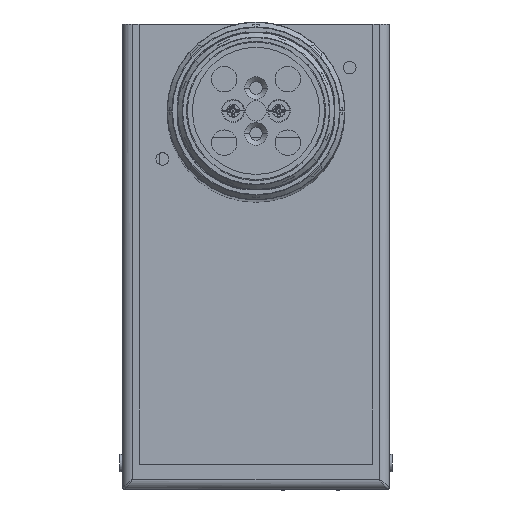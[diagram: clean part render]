
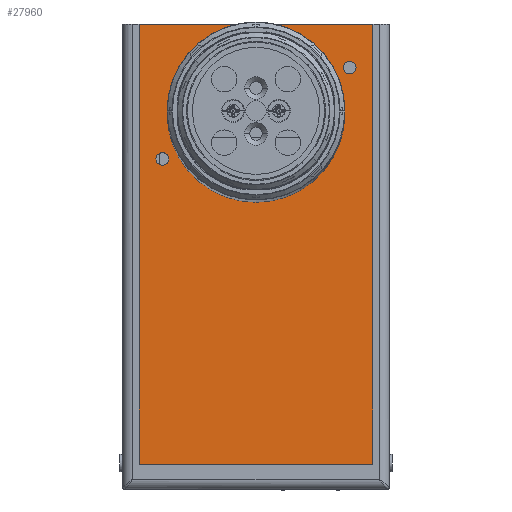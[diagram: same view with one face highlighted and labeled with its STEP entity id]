
A CAD part, top view. The second image highlights one B-rep face of the part: STEP entity #27960.
In plain terms, the highlighted planar face has unit normal (0, 0, 1).
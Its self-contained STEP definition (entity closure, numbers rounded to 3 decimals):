
#894 = CARTESIAN_POINT ( 'NONE',  ( 34.413, 62.507, 334.5 ) ) ;
#1187 = DIRECTION ( 'NONE',  ( 1., 0., 0. ) ) ;
#1225 = DIRECTION ( 'NONE',  ( 0., 0., 1. ) ) ;
#2099 = CARTESIAN_POINT ( 'NONE',  ( 32.563, 44.534, 334.5 ) ) ;
#2433 = AXIS2_PLACEMENT_3D ( 'NONE', #38043, #30688, #4895 ) ;
#2964 = EDGE_CURVE ( 'NONE', #37181, #27104, #26144, .T. ) ;
#2967 = ORIENTED_EDGE ( 'NONE', *, *, #17837, .T. ) ;
#3018 = VERTEX_POINT ( 'NONE', #35580 ) ;
#4639 = VECTOR ( 'NONE', #36598, 1000. ) ;
#4748 = ORIENTED_EDGE ( 'NONE', *, *, #23690, .T. ) ;
#4883 = DIRECTION ( 'NONE',  ( 0., 0., 1. ) ) ;
#4895 = DIRECTION ( 'NONE',  ( -1., 0., 0. ) ) ;
#5118 = VERTEX_POINT ( 'NONE', #30305 ) ;
#5563 = CARTESIAN_POINT ( 'NONE',  ( -39.288, 26.561, 334.5 ) ) ;
#6053 = ORIENTED_EDGE ( 'NONE', *, *, #24889, .F. ) ;
#6227 = EDGE_CURVE ( 'NONE', #32697, #5118, #43122, .T. ) ;
#6523 = VERTEX_POINT ( 'NONE', #25514 ) ;
#7358 = AXIS2_PLACEMENT_3D ( 'NONE', #894, #4883, #44943 ) ;
#7478 = CARTESIAN_POINT ( 'NONE',  ( 43.563, 79.534, 334.5 ) ) ;
#8617 = VERTEX_POINT ( 'NONE', #24850 ) ;
#11777 = FACE_OUTER_BOUND ( 'NONE', #47098, .T. ) ;
#11955 = CARTESIAN_POINT ( 'NONE',  ( 43.563, 79.534, 334.5 ) ) ;
#13008 = ORIENTED_EDGE ( 'NONE', *, *, #2964, .T. ) ;
#13064 = CIRCLE ( 'NONE', #15388, 2.5 ) ;
#13167 = CARTESIAN_POINT ( 'NONE',  ( -48.437, -93.466, 334.5 ) ) ;
#13215 = CARTESIAN_POINT ( 'NONE',  ( -2.437, 44.534, 334.5 ) ) ;
#13480 = FACE_BOUND ( 'NONE', #16788, .T. ) ;
#14121 = VECTOR ( 'NONE', #46150, 1000. ) ;
#14562 = ORIENTED_EDGE ( 'NONE', *, *, #27738, .T. ) ;
#14605 = AXIS2_PLACEMENT_3D ( 'NONE', #13215, #38823, #28085 ) ;
#14620 = CARTESIAN_POINT ( 'NONE',  ( 36.913, 62.507, 334.5 ) ) ;
#15388 = AXIS2_PLACEMENT_3D ( 'NONE', #19223, #22724, #22386 ) ;
#16788 = EDGE_LOOP ( 'NONE', ( #28894, #41592 ) ) ;
#17606 = DIRECTION ( 'NONE',  ( 0., 0., -1. ) ) ;
#17739 = DIRECTION ( 'NONE',  ( 0., 0., 1. ) ) ;
#17837 = EDGE_CURVE ( 'NONE', #27104, #22146, #27568, .T. ) ;
#19223 = CARTESIAN_POINT ( 'NONE',  ( 34.413, 62.507, 334.5 ) ) ;
#19315 = LINE ( 'NONE', #7478, #33623 ) ;
#19411 = EDGE_CURVE ( 'NONE', #3018, #8617, #30925, .T. ) ;
#20274 = VERTEX_POINT ( 'NONE', #32906 ) ;
#21117 = CARTESIAN_POINT ( 'NONE',  ( -2.437, 44.534, 334.5 ) ) ;
#21263 = DIRECTION ( 'NONE',  ( -1., 0., 0. ) ) ;
#22146 = VERTEX_POINT ( 'NONE', #32036 ) ;
#22386 = DIRECTION ( 'NONE',  ( -1., 0., 0. ) ) ;
#22527 = DIRECTION ( 'NONE',  ( -1., 0., 0. ) ) ;
#22724 = DIRECTION ( 'NONE',  ( 0., 0., 1. ) ) ;
#23344 = EDGE_CURVE ( 'NONE', #6523, #34886, #33902, .T. ) ;
#23690 = EDGE_CURVE ( 'NONE', #5118, #22146, #43051, .T. ) ;
#23771 = VERTEX_POINT ( 'NONE', #14620 ) ;
#23875 = CARTESIAN_POINT ( 'NONE',  ( -39.288, 26.561, 334.5 ) ) ;
#24850 = CARTESIAN_POINT ( 'NONE',  ( -36.788, 26.561, 334.5 ) ) ;
#24889 = EDGE_CURVE ( 'NONE', #8617, #3018, #31994, .T. ) ;
#24946 = DIRECTION ( 'NONE',  ( -1., 0., 0. ) ) ;
#25514 = CARTESIAN_POINT ( 'NONE',  ( -48.437, 79.534, 334.5 ) ) ;
#26048 = EDGE_CURVE ( 'NONE', #22146, #6523, #19315, .T. ) ;
#26144 = LINE ( 'NONE', #42316, #14121 ) ;
#27104 = VERTEX_POINT ( 'NONE', #32186 ) ;
#27508 = AXIS2_PLACEMENT_3D ( 'NONE', #5563, #17739, #21263 ) ;
#27568 = LINE ( 'NONE', #46674, #45919 ) ;
#27738 = EDGE_CURVE ( 'NONE', #22146, #32697, #31297, .T. ) ;
#27944 = EDGE_CURVE ( 'NONE', #20274, #23771, #45607, .T. ) ;
#27960 = ADVANCED_FACE ( 'NONE', ( #13480, #31247, #11777 ), #30028, .T. ) ;
#27995 = VECTOR ( 'NONE', #1187, 1000. ) ;
#28085 = DIRECTION ( 'NONE',  ( -1., 0., 0. ) ) ;
#28894 = ORIENTED_EDGE ( 'NONE', *, *, #35247, .F. ) ;
#30028 = PLANE ( 'NONE',  #41761 ) ;
#30305 = CARTESIAN_POINT ( 'NONE',  ( -37.437, 44.534, 334.5 ) ) ;
#30646 = CARTESIAN_POINT ( 'NONE',  ( 43.563, -93.466, 334.5 ) ) ;
#30688 = DIRECTION ( 'NONE',  ( 0., 0., -1. ) ) ;
#30917 = DIRECTION ( 'NONE',  ( 0., 0., 1. ) ) ;
#30925 = CIRCLE ( 'NONE', #36182, 2.5 ) ;
#31247 = FACE_BOUND ( 'NONE', #40625, .T. ) ;
#31297 = CIRCLE ( 'NONE', #42678, 35. ) ;
#31826 = ORIENTED_EDGE ( 'NONE', *, *, #37269, .T. ) ;
#31994 = CIRCLE ( 'NONE', #27508, 2.5 ) ;
#32036 = CARTESIAN_POINT ( 'NONE',  ( -2.437, 79.534, 334.5 ) ) ;
#32186 = CARTESIAN_POINT ( 'NONE',  ( 43.563, 79.534, 334.5 ) ) ;
#32697 = VERTEX_POINT ( 'NONE', #2099 ) ;
#32906 = CARTESIAN_POINT ( 'NONE',  ( 31.913, 62.507, 334.5 ) ) ;
#33623 = VECTOR ( 'NONE', #22527, 1000. ) ;
#33694 = CARTESIAN_POINT ( 'NONE',  ( 43.563, -93.466, 334.5 ) ) ;
#33902 = LINE ( 'NONE', #36920, #4639 ) ;
#34886 = VERTEX_POINT ( 'NONE', #13167 ) ;
#35247 = EDGE_CURVE ( 'NONE', #23771, #20274, #13064, .T. ) ;
#35580 = CARTESIAN_POINT ( 'NONE',  ( -41.788, 26.561, 334.5 ) ) ;
#36078 = ORIENTED_EDGE ( 'NONE', *, *, #23344, .T. ) ;
#36182 = AXIS2_PLACEMENT_3D ( 'NONE', #23875, #30917, #37965 ) ;
#36416 = ORIENTED_EDGE ( 'NONE', *, *, #6227, .T. ) ;
#36598 = DIRECTION ( 'NONE',  ( 0., -1., 0. ) ) ;
#36920 = CARTESIAN_POINT ( 'NONE',  ( -48.437, -93.466, 334.5 ) ) ;
#37181 = VERTEX_POINT ( 'NONE', #33694 ) ;
#37269 = EDGE_CURVE ( 'NONE', #34886, #37181, #46892, .T. ) ;
#37965 = DIRECTION ( 'NONE',  ( -1., 0., 0. ) ) ;
#38043 = CARTESIAN_POINT ( 'NONE',  ( -2.437, 44.534, 334.5 ) ) ;
#38823 = DIRECTION ( 'NONE',  ( 0., 0., -1. ) ) ;
#40625 = EDGE_LOOP ( 'NONE', ( #6053, #46154 ) ) ;
#41592 = ORIENTED_EDGE ( 'NONE', *, *, #27944, .F. ) ;
#41761 = AXIS2_PLACEMENT_3D ( 'NONE', #11955, #1225, #45100 ) ;
#42316 = CARTESIAN_POINT ( 'NONE',  ( 43.563, -93.466, 334.5 ) ) ;
#42678 = AXIS2_PLACEMENT_3D ( 'NONE', #21117, #17606, #24946 ) ;
#42979 = DIRECTION ( 'NONE',  ( -1., 0., 0. ) ) ;
#43051 = CIRCLE ( 'NONE', #14605, 35. ) ;
#43122 = CIRCLE ( 'NONE', #2433, 35. ) ;
#44943 = DIRECTION ( 'NONE',  ( -1., 0., 0. ) ) ;
#45100 = DIRECTION ( 'NONE',  ( -1., 0., 0. ) ) ;
#45607 = CIRCLE ( 'NONE', #7358, 2.5 ) ;
#45919 = VECTOR ( 'NONE', #42979, 1000. ) ;
#46150 = DIRECTION ( 'NONE',  ( 0., 1., 0. ) ) ;
#46154 = ORIENTED_EDGE ( 'NONE', *, *, #19411, .F. ) ;
#46674 = CARTESIAN_POINT ( 'NONE',  ( 43.563, 79.534, 334.5 ) ) ;
#46892 = LINE ( 'NONE', #30646, #27995 ) ;
#47098 = EDGE_LOOP ( 'NONE', ( #2967, #14562, #36416, #4748, #47243, #36078, #31826, #13008 ) ) ;
#47243 = ORIENTED_EDGE ( 'NONE', *, *, #26048, .T. ) ;
